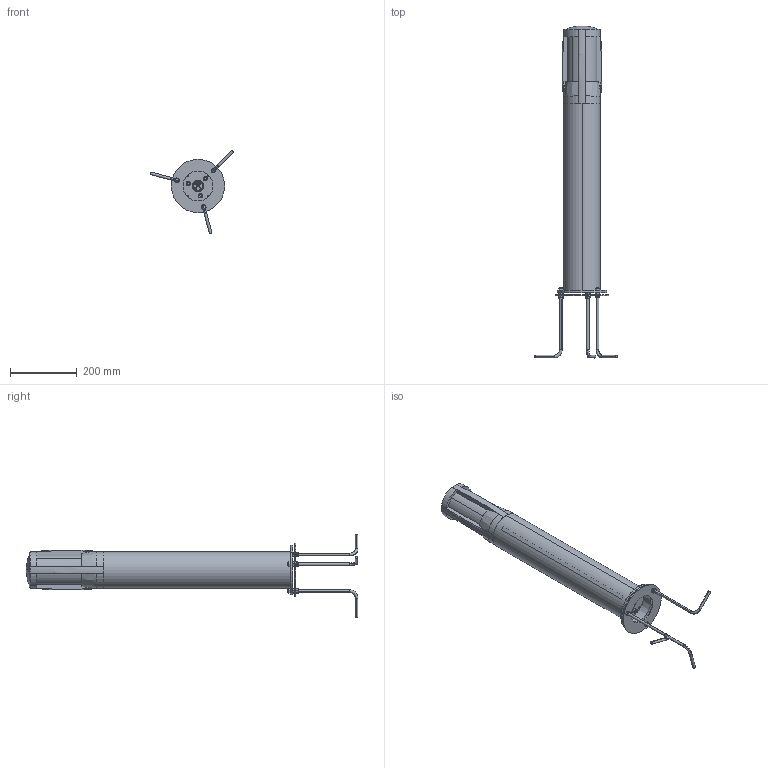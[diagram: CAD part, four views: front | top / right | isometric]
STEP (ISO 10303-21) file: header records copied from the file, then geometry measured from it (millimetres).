
FILE_DESCRIPTION((''),'2;1');
FILE_NAME('D9AR-800_ASM','2024-09-03T',('C028'),(''),'CREO PARAMETRIC BY PTC INC, 2014190','CREO PARAMETRIC BY PTC INC, 2014190','');
FILE_SCHEMA(('CONFIG_CONTROL_DESIGN'));
Products named in the file (37): 9AK-07GUDINGZUO_23_1; 3BU_13DIANYUANHE_4; 9AB-04DUDINGZUOFANGSHUIQUAN_4; 9AB-03DUDINGZUOHOUGAI_4; M4X12MM_3_1_1_2_2; PAD_1_135_2; FANGUANGSAI-1_1_135_2; FANGSHUISAI_1_135_2; PG9_ASM_1_ASM_135_ASM_2_ASM; PG9_ASM_2_ASM; 9AR-06TOUGUANGZHAODIZUO_12; 9AR-03_7; M3X501_1_6_9; 9AR-04_4; 9AD_8; 9AR-05TOUGUANZHAOSHANGGAI_4; 9AR-02_8; 2ISPINGDIAN_3; M3_20_5_2; 3DJMOZU_6; 4013-5; 9AD_ASM_19_ASM; 9AR-01SHANGGAI_9; 9AD-07_300_1_35; LI_BAN; 12-ZHUANGJIEGGAI_3; GUANZI_1; DICHA14A_ASM_1_ASM; LI_BAN-24; 9AB_FA_LAN_PAN_56; M8-20; 9EE_A11_ASM_583_ASM; 9AB-11_4__ANY_; M8LUOMU_3__ANY_; 9AB-10_5__ANY_; 9ABDIZUO_AF5_ASM_333_ASM_1_ANY__ASM; D9AR-800_ASM
Assembly tree (62 placements, depth 5):
  D9AR-800_ASM
    9AD_ASM_19_ASM
      9AK-07GUDINGZUO_23_1
      3BU_13DIANYUANHE_4
      9AB-04DUDINGZUOFANGSHUIQUAN_4  x2
      9AB-03DUDINGZUOHOUGAI_4
      M4X12MM_3_1_1_2_2  x4
      PG9_ASM_2_ASM
        PG9_ASM_1_ASM_135_ASM_2_ASM
          PAD_1_135_2
          FANGUANGSAI-1_1_135_2
          FANGSHUISAI_1_135_2
      9AR-06TOUGUANGZHAODIZUO_12
      9AR-03_7
      M3X501_1_6_9  x2
      9AR-04_4
      9AD_8  x6
      9AR-05TOUGUANZHAOSHANGGAI_4
      9AR-02_8
      2ISPINGDIAN_3  x2
      M3_20_5_2
      3DJMOZU_6
      4013-5  x3
    9AR-01SHANGGAI_9
    9EE_A11_ASM_583_ASM
      9AD-07_300_1_35
      LI_BAN
      DICHA14A_ASM_1_ASM
        12-ZHUANGJIEGGAI_3  x2
        GUANZI_1
      LI_BAN-24
      9AB_FA_LAN_PAN_56
      M8-20  x3
    9ABDIZUO_AF5_ASM_333_ASM_1_ANY__ASM
      9AB-11_4__ANY_  x3
      M8LUOMU_3__ANY_  x9
      9AB-10_5__ANY_
Bounding box: 248.96 x 995.35 x 248.96 mm (x, y, z)
Volume: 2107703.1 mm3; surface area: 1212987.1 mm2
Topology: 56 solids, 56 shells, 2621 faces, 7246 edges, 4800 vertices
Faces by surface type: plane 1346, cylinder 661, cone 292, torus 172, bspline 136, sphere 14
Entity records: 83407 total; most frequent: CARTESIAN_POINT 30537, ORIENTED_EDGE 11238, DIRECTION 10541, EDGE_CURVE 5619, VERTEX_POINT 3732, AXIS2_PLACEMENT_3D 3687, VECTOR 3167, LINE 3167
